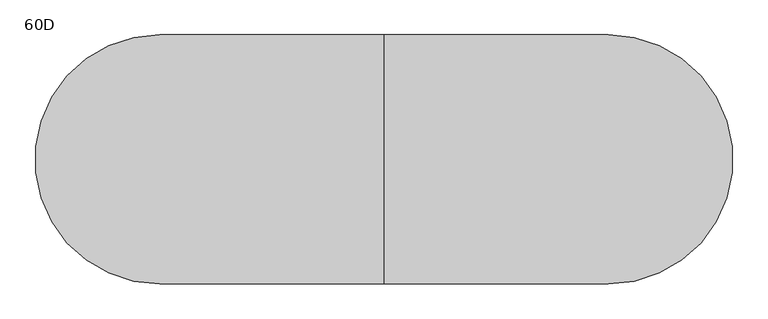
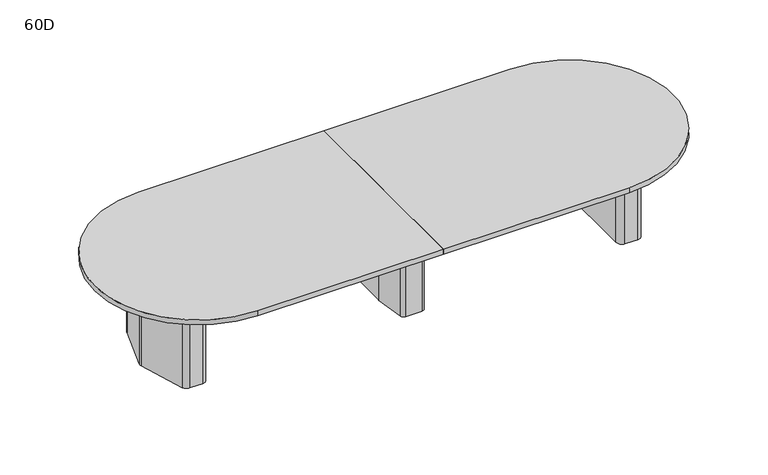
"""IFC4 building model written with IfcOpenShell, lengths in millimetres: furniture geometry, Coalesse_AM_Table_Conference_ETable2_Racetrack_14ft_ThreeBase : 60D."""

from ifc_helpers import new_model, si_unit, point, frame, frame_2d, origin, origin_with_axes, place, context, project, spatial, polyline, circle_curve, trimmed, segment, composite_curve, outline, extrude, source, transform, mapped, element, save
from ifc_brep_helpers import plane_surface, cylinder_surface, revolved_surface, advanced_brep


def furniture_60d_78f2c5b1(model_context):
    return source(origin(), model_context, "Body", "SolidModel", [
        advanced_brep(
        [(61.0357815, 381.0, 698.5), (-61.0357815, 381.0, 698.5), (-86.1885994, 359.1349332, 698.5), (-117.2278179, 138.2753661, 698.5), (-117.475, 134.740433, 698.5), (-117.475, -134.7404196, 698.5), (-117.2278463, -138.2751502, 698.5), (-86.1904395, -359.1347306, 698.5), (-61.0375932, -381.0, 698.5), (61.0375932, -381.0, 698.5), (86.1904395, -359.1347306, 698.5), (117.2278463, -138.2751502, 698.5), (117.475, -134.7404196, 698.5), (117.475, 134.740433, 698.5), (117.2278179, 138.2753661, 698.5), (86.1885994, 359.1349332, 698.5), (25.4, 314.325, 698.5), (50.8, 288.925, 698.5), (50.8, -288.925, 698.5), (25.4, -314.325, 698.5), (-25.4, -314.325, 698.5), (-50.8, -288.925, 698.5), (-50.8, 288.925, 698.5), (-25.4, 314.325, 698.5), (61.0357815, 381.0, 3.175), (86.1885994, 359.1349332, 3.175), (117.2278179, 138.2753661, 3.175), (117.475, 134.740433, 3.175), (117.475, -134.7404196, 3.175), (117.2278463, -138.2751502, 3.175), (86.1904395, -359.1347306, 3.175), (61.0375932, -381.0, 3.175), (-61.0375932, -381.0, 3.175), (-86.1904395, -359.1347306, 3.175), (-117.2278463, -138.2751502, 3.175), (-117.475, -134.7404196, 3.175), (-117.475, 134.740433, 3.175), (-117.2278179, 138.2753661, 3.175), (-86.1885994, 359.1349332, 3.175), (-61.0357815, 381.0, 3.175), (25.4, 327.025, 3.175), (-25.4, 327.025, 3.175), (-63.5, 288.925, 3.175), (-63.5, -288.925, 3.175), (-25.4, -327.025, 3.175), (25.4, -327.025, 3.175), (63.5, -288.925, 3.175), (63.5, 288.925, 3.175), (25.4, 314.325, 3.175), (50.8, 288.925, 3.175), (50.8, -288.925, 3.175), (25.4, -314.325, 3.175), (-25.4, -314.325, 3.175), (-50.8, -288.925, 3.175), (-50.8, 288.925, 3.175), (-25.4, 314.325, 3.175), (25.4, 327.025, 0.0), (63.5, 288.925, 0.0), (63.5, -288.925, 0.0), (25.4, -327.025, 0.0), (-25.4, -327.025, 0.0), (-63.5, -288.925, 0.0), (-63.5, 288.925, 0.0), (-25.4, 327.025, 0.0)],
        [
            (0, 1),
            (1, 2, circle_curve(frame((-61.0357815, 355.6, 698.5), z_axis=(0.0, 0.0, 1.0), x_axis=(1.0, 0.0, 0.0)), 25.4)),
            (2, 3),
            (3, 4, circle_curve(frame((-92.075, 134.740433, 698.5), z_axis=(0.0, 0.0, 1.0), x_axis=(1.0, 0.0, 0.0)), 25.4)),
            (4, 5),
            (5, 6, circle_curve(frame((-92.075, -134.7404196, 698.5), z_axis=(0.0, 0.0, 1.0), x_axis=(1.0, 0.0, 0.0)), 25.4)),
            (6, 7),
            (7, 8, circle_curve(frame((-61.0375932, -355.6, 698.5), z_axis=(0.0, 0.0, 1.0), x_axis=(1.0, 0.0, 0.0)), 25.4)),
            (8, 9),
            (9, 10, circle_curve(frame((61.0375932, -355.6, 698.5), z_axis=(0.0, 0.0, 1.0), x_axis=(1.0, 0.0, 0.0)), 25.4)),
            (10, 11),
            (11, 12, circle_curve(frame((92.075, -134.7404196, 698.5), z_axis=(0.0, 0.0, 1.0), x_axis=(1.0, 0.0, 0.0)), 25.4)),
            (12, 13),
            (13, 14, circle_curve(frame((92.075, 134.740433, 698.5), z_axis=(0.0, 0.0, 1.0), x_axis=(1.0, 0.0, 0.0)), 25.4)),
            (14, 15),
            (15, 0, circle_curve(frame((61.0357815, 355.6, 698.5), z_axis=(0.0, 0.0, 1.0), x_axis=(1.0, 0.0, 0.0)), 25.4)),
            (16, 17, circle_curve(frame((25.4, 288.925, 698.5), z_axis=(0.0, 0.0, -1.0), x_axis=(1.0, 0.0, 0.0)), 25.4)),
            (17, 18),
            (18, 19, circle_curve(frame((25.4, -288.925, 698.5), z_axis=(0.0, 0.0, -1.0), x_axis=(1.0, 0.0, 0.0)), 25.4)),
            (19, 20),
            (20, 21, circle_curve(frame((-25.4, -288.925, 698.5), z_axis=(0.0, 0.0, -1.0), x_axis=(1.0, 0.0, 0.0)), 25.4)),
            (21, 22),
            (22, 23, circle_curve(frame((-25.4, 288.925, 698.5), z_axis=(0.0, 0.0, -1.0), x_axis=(1.0, 0.0, 0.0)), 25.4)),
            (23, 16),
            (24, 25, circle_curve(frame((61.0357815, 355.6, 3.175), z_axis=(0.0, 0.0, -1.0), x_axis=(1.0, 0.0, 0.0)), 25.4)),
            (25, 26),
            (26, 27, circle_curve(frame((92.075, 134.740433, 3.175), z_axis=(0.0, 0.0, -1.0), x_axis=(1.0, 0.0, 0.0)), 25.4)),
            (27, 28),
            (28, 29, circle_curve(frame((92.075, -134.7404196, 3.175), z_axis=(0.0, 0.0, -1.0), x_axis=(1.0, 0.0, 0.0)), 25.4)),
            (29, 30),
            (30, 31, circle_curve(frame((61.0375932, -355.6, 3.175), z_axis=(0.0, 0.0, -1.0), x_axis=(1.0, 0.0, 0.0)), 25.4)),
            (31, 32),
            (32, 33, circle_curve(frame((-61.0375932, -355.6, 3.175), z_axis=(0.0, 0.0, -1.0), x_axis=(1.0, 0.0, 0.0)), 25.4)),
            (33, 34),
            (34, 35, circle_curve(frame((-92.075, -134.7404196, 3.175), z_axis=(0.0, 0.0, -1.0), x_axis=(1.0, 0.0, 0.0)), 25.4)),
            (35, 36),
            (36, 37, circle_curve(frame((-92.075, 134.740433, 3.175), z_axis=(0.0, 0.0, -1.0), x_axis=(1.0, 0.0, 0.0)), 25.4)),
            (37, 38),
            (38, 39, circle_curve(frame((-61.0357815, 355.6, 3.175), z_axis=(0.0, 0.0, -1.0), x_axis=(1.0, 0.0, 0.0)), 25.4)),
            (39, 24),
            (40, 41),
            (41, 42, circle_curve(frame((-25.4, 288.925, 3.175), z_axis=(0.0, 0.0, 1.0), x_axis=(1.0, 0.0, 0.0)), 38.1)),
            (42, 43),
            (43, 44, circle_curve(frame((-25.4, -288.925, 3.175), z_axis=(0.0, 0.0, 1.0), x_axis=(1.0, 0.0, 0.0)), 38.1)),
            (44, 45),
            (45, 46, circle_curve(frame((25.4, -288.925, 3.175), z_axis=(0.0, 0.0, 1.0), x_axis=(1.0, 0.0, 0.0)), 38.1)),
            (46, 47),
            (47, 40, circle_curve(frame((25.4, 288.925, 3.175), z_axis=(0.0, 0.0, 1.0), x_axis=(1.0, 0.0, 0.0)), 38.1)),
            (0, 24),
            (39, 1),
            (38, 2),
            (37, 3),
            (36, 4),
            (35, 5),
            (34, 6),
            (33, 7),
            (32, 8),
            (31, 9),
            (30, 10),
            (29, 11),
            (28, 12),
            (27, 13),
            (26, 14),
            (25, 15),
            (16, 48),
            (48, 49, circle_curve(frame((25.4, 288.925, 3.175), z_axis=(0.0, 0.0, -1.0), x_axis=(1.0, 0.0, 0.0)), 25.4)),
            (49, 17),
            (49, 50),
            (50, 18),
            (50, 51, circle_curve(frame((25.4, -288.925, 3.175), z_axis=(0.0, 0.0, -1.0), x_axis=(1.0, 0.0, 0.0)), 25.4)),
            (51, 19),
            (51, 52),
            (52, 20),
            (52, 53, circle_curve(frame((-25.4, -288.925, 3.175), z_axis=(0.0, 0.0, -1.0), x_axis=(1.0, 0.0, 0.0)), 25.4)),
            (53, 21),
            (53, 54),
            (54, 22),
            (54, 55, circle_curve(frame((-25.4, 288.925, 3.175), z_axis=(0.0, 0.0, -1.0), x_axis=(1.0, 0.0, 0.0)), 25.4)),
            (55, 23),
            (55, 48),
            (56, 57, circle_curve(frame((25.4, 288.925, 0.0), z_axis=(0.0, 0.0, -1.0), x_axis=(1.0, 0.0, 0.0)), 38.1)),
            (57, 58),
            (58, 59, circle_curve(frame((25.4, -288.925, 0.0), z_axis=(0.0, 0.0, -1.0), x_axis=(1.0, 0.0, 0.0)), 38.1)),
            (59, 60),
            (60, 61, circle_curve(frame((-25.4, -288.925, 0.0), z_axis=(0.0, 0.0, -1.0), x_axis=(1.0, 0.0, 0.0)), 38.1)),
            (61, 62),
            (62, 63, circle_curve(frame((-25.4, 288.925, 0.0), z_axis=(0.0, 0.0, -1.0), x_axis=(1.0, 0.0, 0.0)), 38.1)),
            (63, 56),
            (63, 41),
            (40, 56),
            (62, 42),
            (61, 43),
            (60, 44),
            (59, 45),
            (58, 46),
            (57, 47),
        ],
        [
            plane_surface(frame((-1524.0, 381.0, 698.5), z_axis=(0.0, 0.0, 1.0), x_axis=(-1.0, 0.0, 0.0))),
            plane_surface(frame((-1524.0, 381.0, 3.175), z_axis=(0.0, 0.0, -1.0), x_axis=(1.0, 0.0, 0.0))),
            plane_surface(frame((61.0357815, 381.0, 698.5), z_axis=(0.0, 1.0, 0.0), x_axis=(0.0, 0.0, -1.0))),
            cylinder_surface(frame((-61.0357815, 355.6, 3.175), z_axis=(0.0, 0.0, 1.0), x_axis=(1.0, 0.0, 0.0)), 25.4),
            plane_surface(frame((-86.1885994, 359.1349332, 698.5), z_axis=(-0.9902684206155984, 0.13917059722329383, 0.0), x_axis=(0.0, 0.0, -1.0))),
            cylinder_surface(frame((-92.075, 134.740433, 3.175), z_axis=(0.0, 0.0, 1.0), x_axis=(1.0, 0.0, 0.0)), 25.4),
            plane_surface(frame((-117.475, 134.740433, 698.5), z_axis=(-1.0, 0.0, 0.0), x_axis=(0.0, 0.0, -1.0))),
            cylinder_surface(frame((-92.075, -134.7404196, 3.175), z_axis=(0.0, 0.0, 1.0), x_axis=(1.0, 0.0, 0.0)), 25.4),
            plane_surface(frame((-117.2278463, -138.2751502, 698.5), z_axis=(-0.9902695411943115, -0.1391626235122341, 0.0), x_axis=(0.0, 0.0, -1.0))),
            cylinder_surface(frame((-61.0375932, -355.6, 3.175), z_axis=(0.0, 0.0, 1.0), x_axis=(1.0, 0.0, 0.0)), 25.4),
            plane_surface(frame((-61.0375932, -381.0, 698.5), z_axis=(0.0, -1.0, 0.0), x_axis=(0.0, 0.0, -1.0))),
            cylinder_surface(frame((61.0375932, -355.6, 3.175), z_axis=(0.0, 0.0, 1.0), x_axis=(1.0, 0.0, 0.0)), 25.4),
            plane_surface(frame((86.1904395, -359.1347306, 698.5), z_axis=(0.9902695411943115, -0.1391626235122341, 0.0), x_axis=(0.0, 0.0, -1.0))),
            cylinder_surface(frame((92.075, -134.7404196, 3.175), z_axis=(0.0, 0.0, 1.0), x_axis=(1.0, 0.0, 0.0)), 25.4),
            plane_surface(frame((117.475, -134.7404196, 698.5), z_axis=(1.0, 0.0, 0.0), x_axis=(0.0, 0.0, -1.0))),
            cylinder_surface(frame((92.075, 134.740433, 3.175), z_axis=(0.0, 0.0, 1.0), x_axis=(1.0, 0.0, 0.0)), 25.4),
            plane_surface(frame((117.2278179, 138.2753661, 698.5), z_axis=(0.9902684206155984, 0.13917059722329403, 0.0), x_axis=(0.0, 0.0, -1.0))),
            cylinder_surface(frame((61.0357815, 355.6, 3.175), z_axis=(0.0, 0.0, 1.0), x_axis=(1.0, 0.0, 0.0)), 25.4),
            revolved_surface(polyline([(50.8, 288.925, 3.175), (50.8, 288.925, 698.5)]), (25.4, 288.925, 0.0), (0.0, 0.0, -1.0)),
            plane_surface(frame((50.8, 288.925, 698.5), z_axis=(-1.0, 0.0, 0.0), x_axis=(0.0, 0.0, -1.0))),
            revolved_surface(polyline([(50.8, -288.925, 3.175), (50.8, -288.925, 698.5)]), (25.4, -288.925, 0.0), (0.0, 0.0, -1.0)),
            plane_surface(frame((25.4, -314.325, 698.5), z_axis=(0.0, 1.0, 0.0), x_axis=(0.0, 0.0, -1.0))),
            revolved_surface(polyline([(0.0, -288.925, 3.175), (0.0, -288.925, 698.5)]), (-25.4, -288.925, 0.0), (0.0, 0.0, -1.0)),
            plane_surface(frame((-50.8, -288.925, 698.5), z_axis=(1.0, 0.0, 0.0), x_axis=(0.0, 0.0, -1.0))),
            revolved_surface(polyline([(0.0, 288.925, 3.175), (0.0, 288.925, 698.5)]), (-25.4, 288.925, 0.0), (0.0, 0.0, -1.0)),
            plane_surface(frame((-25.4, 314.325, 698.5), z_axis=(0.0, -1.0, 0.0), x_axis=(0.0, 0.0, -1.0))),
            plane_surface(frame((-50.8, 327.025, 3.175), z_axis=(0.0, 0.0, 1.0), x_axis=(-1.0, 0.0, 0.0))),
            plane_surface(frame((-50.8, 327.025, 0.0), z_axis=(0.0, 0.0, -1.0), x_axis=(1.0, 0.0, 0.0))),
            plane_surface(frame((25.4, 327.025, 3.175), z_axis=(0.0, 1.0, 0.0), x_axis=(0.0, 0.0, -1.0))),
            cylinder_surface(frame((-25.4, 288.925, 0.0), z_axis=(0.0, 0.0, 1.0), x_axis=(1.0, 0.0, 0.0)), 38.1),
            plane_surface(frame((-63.5, 288.925, 3.175), z_axis=(-1.0, 0.0, 0.0), x_axis=(0.0, 0.0, -1.0))),
            cylinder_surface(frame((-25.4, -288.925, 0.0), z_axis=(0.0, 0.0, 1.0), x_axis=(1.0, 0.0, 0.0)), 38.1),
            plane_surface(frame((-25.4, -327.025, 3.175), z_axis=(0.0, -1.0, 0.0), x_axis=(0.0, 0.0, -1.0))),
            cylinder_surface(frame((25.4, -288.925, 0.0), z_axis=(0.0, 0.0, 1.0), x_axis=(1.0, 0.0, 0.0)), 38.1),
            plane_surface(frame((63.5, -288.925, 3.175), z_axis=(1.0, 0.0, 0.0), x_axis=(0.0, 0.0, -1.0))),
            cylinder_surface(frame((25.4, 288.925, 0.0), z_axis=(0.0, 0.0, 1.0), x_axis=(1.0, 0.0, 0.0)), 38.1),
        ],
        [
            (0, [[1, 2, 3, 4, 5, 6, 7, 8, 9, 10, 11, 12, 13, 14, 15, 16], [17, 18, 19, 20, 21, 22, 23, 24]]),
            (1, [[25, 26, 27, 28, 29, 30, 31, 32, 33, 34, 35, 36, 37, 38, 39, 40], [41, 42, 43, 44, 45, 46, 47, 48]]),
            (2, [[-1, 49, -40, 50]]),
            (3, [[-2, -50, -39, 51]]),
            (4, [[-3, -51, -38, 52]]),
            (5, [[-4, -52, -37, 53]]),
            (6, [[-5, -53, -36, 54]]),
            (7, [[-6, -54, -35, 55]]),
            (8, [[-7, -55, -34, 56]]),
            (9, [[-8, -56, -33, 57]]),
            (10, [[-9, -57, -32, 58]]),
            (11, [[-10, -58, -31, 59]]),
            (12, [[-11, -59, -30, 60]]),
            (13, [[-12, -60, -29, 61]]),
            (14, [[-13, -61, -28, 62]]),
            (15, [[-14, -62, -27, 63]]),
            (16, [[-15, -63, -26, 64]]),
            (17, [[-16, -64, -25, -49]]),
            (18, [[-17, 65, 66, 67]]),
            (19, [[-18, -67, 68, 69]]),
            (20, [[-19, -69, 70, 71]]),
            (21, [[-20, -71, 72, 73]]),
            (22, [[-21, -73, 74, 75]]),
            (23, [[-22, -75, 76, 77]]),
            (24, [[-23, -77, 78, 79]]),
            (25, [[-24, -79, 80, -65]]),
            (26, [[-66, -80, -78, -76, -74, -72, -70, -68]]),
            (27, [[81, 82, 83, 84, 85, 86, 87, 88]]),
            (28, [[-88, 89, -41, 90]]),
            (29, [[-87, 91, -42, -89]]),
            (30, [[-86, 92, -43, -91]]),
            (31, [[-85, 93, -44, -92]]),
            (32, [[-84, 94, -45, -93]]),
            (33, [[-83, 95, -46, -94]]),
            (34, [[-82, 96, -47, -95]]),
            (35, [[-81, -90, -48, -96]]),
        ],
    ),
        extrude(outline(composite_curve([segment(polyline([(1744.6625, 101.7236478), (1744.6625, -97.2761514)]), True, "CONTINUOUS"), segment(trimmed(circle_curve(frame_2d((1706.5625, -97.2761514)), 38.1), [point((1744.6625, -97.2761514))], [point((1742.8991129, -108.7330515))], False, "CARTESIAN"), True, "CONTINUOUS"), segment(polyline([(1742.8991129, -108.7330515), (1684.4745591, -294.0319001)]), True, "CONTINUOUS"), segment(trimmed(circle_curve(frame_2d((1648.1379462, -282.575)), 38.1), [point((1684.4745591, -294.0319001))], [point((1648.1379462, -320.675))], False, "CARTESIAN"), True, "CONTINUOUS"), segment(polyline([(1648.1379462, -320.675), (1581.15, -320.675)]), True, "CONTINUOUS"), segment(trimmed(circle_curve(frame_2d((1581.15, -282.575)), 38.1), [point((1581.15, -320.675))], [point((1543.05, -282.575))], False, "CARTESIAN"), True, "CONTINUOUS"), segment(polyline([(1543.05, -282.575), (1543.05, 282.575)]), True, "CONTINUOUS"), segment(trimmed(circle_curve(frame_2d((1581.15, 282.575)), 38.1), [point((1543.05, 282.575))], [point((1581.15, 320.675))], False, "CARTESIAN"), True, "CONTINUOUS"), segment(polyline([(1581.15, 320.675), (1651.8873998, 320.675)]), True, "CONTINUOUS"), segment(trimmed(circle_curve(frame_2d((1651.8873998, 282.575)), 38.1), [point((1651.8873998, 320.675))], [point((1688.3572049, 293.6005756))], False, "CARTESIAN"), True, "CONTINUOUS"), segment(polyline([(1688.3572049, 293.6005756), (1743.0323051, 112.7492234)]), True, "CONTINUOUS"), segment(trimmed(circle_curve(frame_2d((1706.5625, 101.7236478)), 38.1), [point((1743.0323051, 112.7492234))], [point((1744.6625, 101.7236478))], False, "CARTESIAN"), True, "CONTINUOUS")], self_intersect=False)), origin_with_axes(), (0.0, 0.0, 1.0), 3.175),
        extrude(outline(composite_curve([segment(polyline([(1565.275, 381.0), (1653.4221663, 381.0)]), True, "CONTINUOUS"), segment(trimmed(circle_curve(frame_2d((1653.4221663, 339.725)), 41.275), [point((1653.4221663, 381.0))], [point((1692.7868303, 352.1366418))], False, "CARTESIAN"), True, "CONTINUOUS"), segment(polyline([(1692.7868303, 352.1366418), (1799.9018053, 12.4116418)]), True, "CONTINUOUS"), segment(trimmed(circle_curve(frame_2d((1760.5371413, 0.0)), 41.275), [point((1799.9018053, 12.4116418))], [point((1799.9018053, -12.4116418))], False, "CARTESIAN"), True, "CONTINUOUS"), segment(polyline([(1799.9018053, -12.4116418), (1692.7868303, -352.1366418)]), True, "CONTINUOUS"), segment(trimmed(circle_curve(frame_2d((1653.4221663, -339.725)), 41.275), [point((1692.7868303, -352.1366418))], [point((1653.4221663, -381.0))], False, "CARTESIAN"), True, "CONTINUOUS"), segment(polyline([(1653.4221663, -381.0), (1558.925, -381.0)]), True, "CONTINUOUS"), segment(trimmed(circle_curve(frame_2d((1558.925, -339.725)), 41.275), [point((1558.925, -381.0))], [point((1517.65, -339.725))], False, "CARTESIAN"), True, "CONTINUOUS"), segment(polyline([(1517.65, -339.725), (1517.65, 333.375)]), True, "CONTINUOUS"), segment(trimmed(circle_curve(frame_2d((1565.275, 333.375)), 47.625), [point((1517.65, 333.375))], [point((1565.275, 381.0))], False, "CARTESIAN"), True, "CONTINUOUS")], self_intersect=False), holes=[composite_curve([segment(trimmed(circle_curve(frame_2d((1581.15, -282.575)), 25.4), [point((1555.75, -282.575))], [point((1581.15, -307.975))], True, "CARTESIAN"), True, "CONTINUOUS"), segment(polyline([(1581.15, -307.975), (1648.1379462, -307.975)]), True, "CONTINUOUS"), segment(trimmed(circle_curve(frame_2d((1648.1379462, -282.575)), 25.4), [point((1648.1379462, -307.975))], [point((1672.3623548, -290.2129334))], True, "CARTESIAN"), True, "CONTINUOUS"), segment(polyline([(1672.3623548, -290.2129334), (1730.7869086, -104.9140848)]), True, "CONTINUOUS"), segment(trimmed(circle_curve(frame_2d((1706.5625, -97.2761514)), 25.4), [point((1730.7869086, -104.9140848))], [point((1731.9625, -97.2761514))], True, "CARTESIAN"), True, "CONTINUOUS"), segment(polyline([(1731.9625, -97.2761514), (1731.9625, 101.7236478)]), True, "CONTINUOUS"), segment(trimmed(circle_curve(frame_2d((1706.5625, 101.7236478)), 25.4), [point((1731.9625, 101.7236478))], [point((1730.8757034, 109.0740316))], True, "CARTESIAN"), True, "CONTINUOUS"), segment(polyline([(1730.8757034, 109.0740316), (1676.2006032, 289.9253837)]), True, "CONTINUOUS"), segment(trimmed(circle_curve(frame_2d((1651.8873998, 282.575)), 25.4), [point((1676.2006032, 289.9253837))], [point((1651.8873998, 307.975))], True, "CARTESIAN"), True, "CONTINUOUS"), segment(polyline([(1651.8873998, 307.975), (1581.15, 307.975)]), True, "CONTINUOUS"), segment(trimmed(circle_curve(frame_2d((1581.15, 282.575)), 25.4), [point((1581.15, 307.975))], [point((1555.75, 282.575))], True, "CARTESIAN"), True, "CONTINUOUS"), segment(polyline([(1555.75, 282.575), (1555.75, -282.575)]), True, "CONTINUOUS")], self_intersect=False)]), frame((0.0, 0.0, 3.175), z_axis=(0.0, 0.0, 1.0), x_axis=(1.0, 0.0, 0.0)), (0.0, 0.0, 1.0), 695.325),
        extrude(outline(composite_curve([segment(trimmed(circle_curve(frame_2d((-1704.975, 101.7236478)), 38.1), [point((-1743.075, 101.7236478))], [point((-1741.4448051, 112.7492234))], False, "CARTESIAN"), True, "CONTINUOUS"), segment(polyline([(-1741.4448051, 112.7492234), (-1686.7697049, 293.6005756)]), True, "CONTINUOUS"), segment(trimmed(circle_curve(frame_2d((-1650.2998998, 282.575)), 38.1), [point((-1686.7697049, 293.6005756))], [point((-1650.2998998, 320.675))], False, "CARTESIAN"), True, "CONTINUOUS"), segment(polyline([(-1650.2998998, 320.675), (-1579.5625, 320.675)]), True, "CONTINUOUS"), segment(trimmed(circle_curve(frame_2d((-1579.5625, 282.575)), 38.1), [point((-1579.5625, 320.675))], [point((-1541.4625, 282.575))], False, "CARTESIAN"), True, "CONTINUOUS"), segment(polyline([(-1541.4625, 282.575), (-1541.4625, -282.575)]), True, "CONTINUOUS"), segment(trimmed(circle_curve(frame_2d((-1579.5625, -282.575)), 38.1), [point((-1541.4625, -282.575))], [point((-1579.5625, -320.675))], False, "CARTESIAN"), True, "CONTINUOUS"), segment(polyline([(-1579.5625, -320.675), (-1646.5504462, -320.675)]), True, "CONTINUOUS"), segment(trimmed(circle_curve(frame_2d((-1646.5504462, -282.575)), 38.1), [point((-1646.5504462, -320.675))], [point((-1682.8870591, -294.0319001))], False, "CARTESIAN"), True, "CONTINUOUS"), segment(polyline([(-1682.8870591, -294.0319001), (-1741.3116129, -108.7330515)]), True, "CONTINUOUS"), segment(trimmed(circle_curve(frame_2d((-1704.975, -97.2761514)), 38.1), [point((-1741.3116129, -108.7330515))], [point((-1743.075, -97.2761514))], False, "CARTESIAN"), True, "CONTINUOUS"), segment(polyline([(-1743.075, -97.2761514), (-1743.075, 101.7236478)]), True, "CONTINUOUS")], self_intersect=False)), origin_with_axes(), (0.0, 0.0, 1.0), 3.175),
        extrude(outline(composite_curve([segment(trimmed(circle_curve(frame_2d((-1563.6875, 333.375)), 47.625), [point((-1563.6875, 381.0))], [point((-1516.0625, 333.375))], False, "CARTESIAN"), True, "CONTINUOUS"), segment(polyline([(-1516.0625, 333.375), (-1516.0625, -339.725)]), True, "CONTINUOUS"), segment(trimmed(circle_curve(frame_2d((-1557.3375, -339.725)), 41.275), [point((-1516.0625, -339.725))], [point((-1557.3375, -381.0))], False, "CARTESIAN"), True, "CONTINUOUS"), segment(polyline([(-1557.3375, -381.0), (-1651.8346663, -381.0)]), True, "CONTINUOUS"), segment(trimmed(circle_curve(frame_2d((-1651.8346663, -339.725)), 41.275), [point((-1651.8346663, -381.0))], [point((-1691.1993303, -352.1366418))], False, "CARTESIAN"), True, "CONTINUOUS"), segment(polyline([(-1691.1993303, -352.1366418), (-1798.3143053, -12.4116418)]), True, "CONTINUOUS"), segment(trimmed(circle_curve(frame_2d((-1758.9496413, 0.0)), 41.275), [point((-1798.3143053, -12.4116418))], [point((-1798.3143053, 12.4116418))], False, "CARTESIAN"), True, "CONTINUOUS"), segment(polyline([(-1798.3143053, 12.4116418), (-1691.1993303, 352.1366418)]), True, "CONTINUOUS"), segment(trimmed(circle_curve(frame_2d((-1651.8346663, 339.725)), 41.275), [point((-1691.1993303, 352.1366418))], [point((-1651.8346663, 381.0))], False, "CARTESIAN"), True, "CONTINUOUS"), segment(polyline([(-1651.8346663, 381.0), (-1563.6875, 381.0)]), True, "CONTINUOUS")], self_intersect=False), holes=[composite_curve([segment(polyline([(-1554.1625, -282.575), (-1554.1625, 282.575)]), True, "CONTINUOUS"), segment(trimmed(circle_curve(frame_2d((-1579.5625, 282.575)), 25.4), [point((-1554.1625, 282.575))], [point((-1579.5625, 307.975))], True, "CARTESIAN"), True, "CONTINUOUS"), segment(polyline([(-1579.5625, 307.975), (-1650.2998998, 307.975)]), True, "CONTINUOUS"), segment(trimmed(circle_curve(frame_2d((-1650.2998998, 282.575)), 25.4), [point((-1650.2998998, 307.975))], [point((-1674.6131032, 289.9253837))], True, "CARTESIAN"), True, "CONTINUOUS"), segment(polyline([(-1674.6131032, 289.9253837), (-1729.2882034, 109.0740316)]), True, "CONTINUOUS"), segment(trimmed(circle_curve(frame_2d((-1704.975, 101.7236478)), 25.4), [point((-1729.2882034, 109.0740316))], [point((-1730.375, 101.7236478))], True, "CARTESIAN"), True, "CONTINUOUS"), segment(polyline([(-1730.375, 101.7236478), (-1730.375, -97.2761514)]), True, "CONTINUOUS"), segment(trimmed(circle_curve(frame_2d((-1704.975, -97.2761514)), 25.4), [point((-1730.375, -97.2761514))], [point((-1729.1994086, -104.9140848))], True, "CARTESIAN"), True, "CONTINUOUS"), segment(polyline([(-1729.1994086, -104.9140848), (-1670.7748548, -290.2129334)]), True, "CONTINUOUS"), segment(trimmed(circle_curve(frame_2d((-1646.5504462, -282.575)), 25.4), [point((-1670.7748548, -290.2129334))], [point((-1646.5504462, -307.975))], True, "CARTESIAN"), True, "CONTINUOUS"), segment(polyline([(-1646.5504462, -307.975), (-1579.5625, -307.975)]), True, "CONTINUOUS"), segment(trimmed(circle_curve(frame_2d((-1579.5625, -282.575)), 25.4), [point((-1579.5625, -307.975))], [point((-1554.1625, -282.575))], True, "CARTESIAN"), True, "CONTINUOUS")], self_intersect=False)]), frame((0.0, 0.0, 3.175), z_axis=(0.0, 0.0, 1.0), x_axis=(1.0, 0.0, 0.0)), (0.0, 0.0, 1.0), 695.325),
        extrude(outline(composite_curve([segment(trimmed(circle_curve(frame_2d((1371.6, 0.0)), 762.0), [point((1371.6, 762.0))], [point((1371.6, -762.0))], False, "CARTESIAN"), True, "CONTINUOUS"), segment(polyline([(1371.6, -762.0), (0.0, -762.0), (0.0, 762.0), (1371.6, 762.0)]), True, "CONTINUOUS")], self_intersect=False)), frame((0.0, 0.0, 698.5), z_axis=(0.0, 0.0, 1.0), x_axis=(1.0, 0.0, 0.0)), (0.0, 0.0, 1.0), 38.1),
        extrude(outline(composite_curve([segment(polyline([(0.0, 762.0), (0.0, -762.0), (-1371.6, -762.0)]), True, "CONTINUOUS"), segment(trimmed(circle_curve(frame_2d((-1371.6, 0.0)), 762.0), [point((-1371.6, -762.0))], [point((-1371.6, 762.0))], False, "CARTESIAN"), True, "CONTINUOUS"), segment(polyline([(-1371.6, 762.0), (0.0, 762.0)]), True, "CONTINUOUS")], self_intersect=False)), frame((0.0, 0.0, 698.5), z_axis=(0.0, 0.0, 1.0), x_axis=(1.0, 0.0, 0.0)), (0.0, 0.0, 1.0), 38.1),
        extrude(outline(polyline([(96.8375, 698.5), (103.1875, 698.5), (103.1875, 476.25), (-103.1875, 476.25), (-103.1875, 698.5), (-96.8375, 698.5), (-96.8375, 482.6), (96.8375, 482.6), (96.8375, 698.5)])), frame((-1516.0625, 0.0, 0.0), z_axis=(1.0, 0.0, 0.0), x_axis=(0.0, 1.0, 0.0)), (0.0, 0.0, 1.0), 3033.7125),
    ])


if __name__ == "__main__":
    model = new_model("IFC4")
    model_context = context("Model", 3, world=origin())
    ifc_project = project(units=[si_unit("LENGTHUNIT", "METRE", prefix="MILLI")], contexts=[model_context])
    site = spatial("IfcSite", under=ifc_project)
    building = spatial("IfcBuilding", under=site)
    placement = place(None, origin())
    furniture_60d_shape = furniture_60d_78f2c5b1(model_context)
    element("IfcFurniture", 1, ObjectType="Coalesse_AM_Table_Conference_ETable2_Racetrack_14ft_ThreeBase : 60D", at=placement, inside=building, context=model_context, shape_type="MappedRepresentation", body=[
        mapped(furniture_60d_shape, transform((0.0, 0.0, 0.0), x_axis=(1.0, 0.0, 0.0), y_axis=(0.0, 1.0, 0.0), z_axis=(0.0, 0.0, 1.0))),
    ])
    save(model, "model.ifc")
